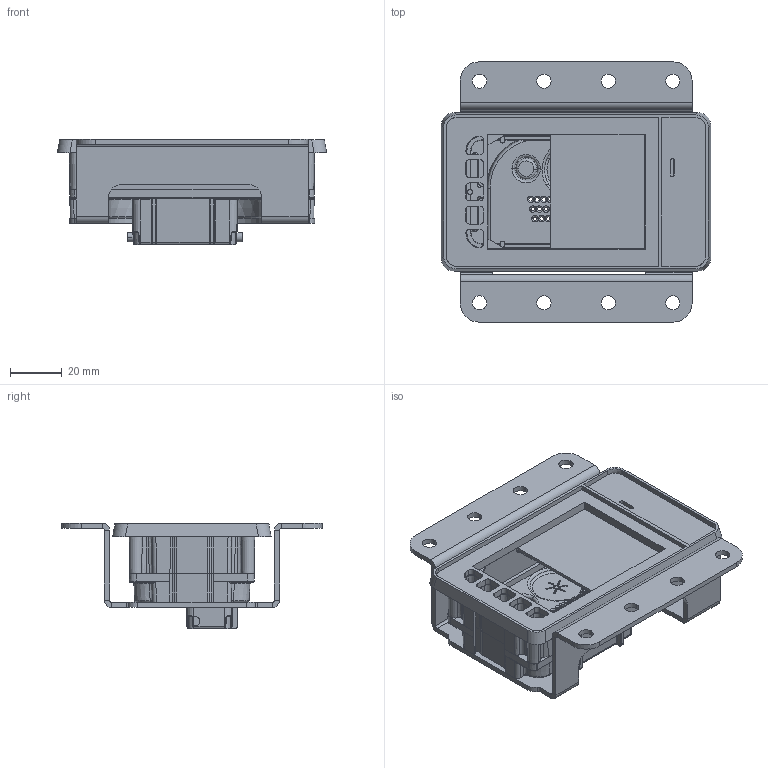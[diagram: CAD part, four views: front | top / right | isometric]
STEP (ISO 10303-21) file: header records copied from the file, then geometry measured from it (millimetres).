
FILE_DESCRIPTION((''),'2;1');
FILE_NAME('SMARTECU_ASM','2021-10-11T15:39:51',('mattia'),(''),'CREO PARAMETRIC BY PTC INC, 2019352','CREO PARAMETRIC BY PTC INC, 2019352','');
FILE_SCHEMA(('CONFIG_CONTROL_DESIGN'));
Products named in the file (5): SMARTVIEW_6_TUTTO; SMARTVIEW_4_TUTTO; SMARTECU-STRUMENTO_ASM; 425_1108; SMARTECU_ASM
Assembly tree (4 placements, depth 3):
  SMARTECU_ASM
    SMARTECU-STRUMENTO_ASM
      SMARTVIEW_6_TUTTO
      SMARTVIEW_4_TUTTO
    425_1108
Bounding box: 104.47 x 101 x 41.1 mm (x, y, z)
Volume: 67221 mm3; surface area: 69524.2 mm2
Topology: 3 solids, 3 shells, 1414 faces, 3886 edges, 2481 vertices
Faces by surface type: cylinder 475, plane 384, cone 202, bspline 177, torus 165, sphere 11
Entity records: 53781 total; most frequent: CARTESIAN_POINT 18532, ORIENTED_EDGE 7752, DIRECTION 6961, EDGE_CURVE 3876, AXIS2_PLACEMENT_3D 2673, VERTEX_POINT 2481, VECTOR 1615, LINE 1615
